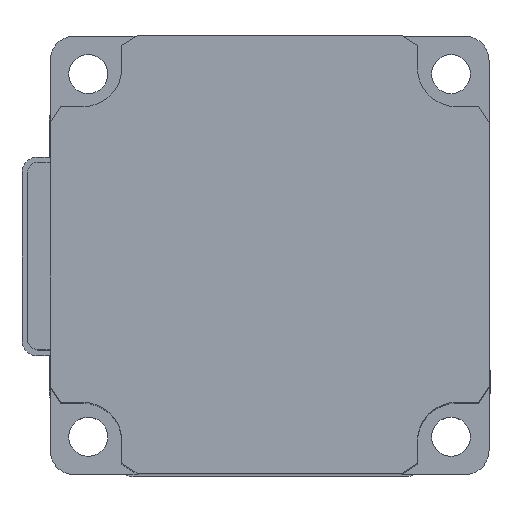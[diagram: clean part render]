
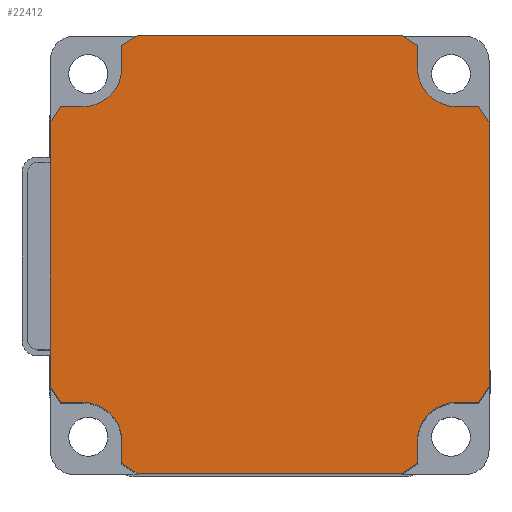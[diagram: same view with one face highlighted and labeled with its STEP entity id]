
A CAD part, top view. The second image highlights one B-rep face of the part: STEP entity #22412.
In plain terms, the highlighted planar face has unit normal (0, 0, 1).
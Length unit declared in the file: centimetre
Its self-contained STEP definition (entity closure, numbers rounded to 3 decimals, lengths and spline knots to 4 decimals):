
#8577=VERTEX_POINT('',#65694);
#8578=VERTEX_POINT('',#65695);
#8581=VERTEX_POINT('',#65703);
#8583=VERTEX_POINT('',#65709);
#8584=VERTEX_POINT('',#65710);
#8587=VERTEX_POINT('',#65718);
#8589=VERTEX_POINT('',#65724);
#8591=VERTEX_POINT('',#65730);
#8593=VERTEX_POINT('',#65736);
#8595=VERTEX_POINT('',#65742);
#8596=VERTEX_POINT('',#65743);
#8599=VERTEX_POINT('',#65751);
#8601=VERTEX_POINT('',#65757);
#8603=VERTEX_POINT('',#65763);
#8605=VERTEX_POINT('',#65769);
#8607=VERTEX_POINT('',#65775);
#8608=VERTEX_POINT('',#65776);
#8611=VERTEX_POINT('',#65784);
#8613=VERTEX_POINT('',#65790);
#8615=VERTEX_POINT('',#65796);
#8617=VERTEX_POINT('',#65802);
#8619=VERTEX_POINT('',#65808);
#8620=VERTEX_POINT('',#65809);
#8623=VERTEX_POINT('',#65817);
#11806=EDGE_CURVE('',#8577,#8578,#27075,.T.);
#11810=EDGE_CURVE('',#8578,#8581,#27079,.T.);
#11813=EDGE_CURVE('',#8583,#8584,#27082,.T.);
#11817=EDGE_CURVE('',#8584,#8587,#27086,.T.);
#11820=EDGE_CURVE('',#8587,#8589,#31299,.T.);
#11823=EDGE_CURVE('',#8589,#8591,#27090,.T.);
#11826=EDGE_CURVE('',#8591,#8593,#27093,.T.);
#11829=EDGE_CURVE('',#8595,#8596,#27096,.T.);
#11833=EDGE_CURVE('',#8596,#8599,#27100,.T.);
#11836=EDGE_CURVE('',#8599,#8601,#31301,.T.);
#11839=EDGE_CURVE('',#8601,#8603,#27104,.T.);
#11842=EDGE_CURVE('',#8603,#8605,#27107,.T.);
#11845=EDGE_CURVE('',#8607,#8608,#27110,.T.);
#11849=EDGE_CURVE('',#8608,#8611,#27114,.T.);
#11852=EDGE_CURVE('',#8611,#8613,#31303,.T.);
#11855=EDGE_CURVE('',#8613,#8615,#27118,.T.);
#11858=EDGE_CURVE('',#8615,#8617,#27121,.T.);
#11861=EDGE_CURVE('',#8619,#8620,#27124,.T.);
#11865=EDGE_CURVE('',#8620,#8623,#27128,.T.);
#11868=EDGE_CURVE('',#8623,#8577,#31305,.T.);
#11870=EDGE_CURVE('',#8617,#8619,#27131,.T.);
#11871=EDGE_CURVE('',#8605,#8607,#27132,.T.);
#11872=EDGE_CURVE('',#8593,#8595,#27133,.T.);
#11873=EDGE_CURVE('',#8581,#8583,#27134,.T.);
#18359=ORIENTED_EDGE('',*,*,#11806,.F.);
#18360=ORIENTED_EDGE('',*,*,#11868,.F.);
#18361=ORIENTED_EDGE('',*,*,#11865,.F.);
#18362=ORIENTED_EDGE('',*,*,#11861,.F.);
#18363=ORIENTED_EDGE('',*,*,#11870,.F.);
#18364=ORIENTED_EDGE('',*,*,#11858,.F.);
#18365=ORIENTED_EDGE('',*,*,#11855,.F.);
#18366=ORIENTED_EDGE('',*,*,#11852,.F.);
#18367=ORIENTED_EDGE('',*,*,#11849,.F.);
#18368=ORIENTED_EDGE('',*,*,#11845,.F.);
#18369=ORIENTED_EDGE('',*,*,#11871,.F.);
#18370=ORIENTED_EDGE('',*,*,#11842,.F.);
#18371=ORIENTED_EDGE('',*,*,#11839,.F.);
#18372=ORIENTED_EDGE('',*,*,#11836,.F.);
#18373=ORIENTED_EDGE('',*,*,#11833,.F.);
#18374=ORIENTED_EDGE('',*,*,#11829,.F.);
#18375=ORIENTED_EDGE('',*,*,#11872,.F.);
#18376=ORIENTED_EDGE('',*,*,#11826,.F.);
#18377=ORIENTED_EDGE('',*,*,#11823,.F.);
#18378=ORIENTED_EDGE('',*,*,#11820,.F.);
#18379=ORIENTED_EDGE('',*,*,#11817,.F.);
#18380=ORIENTED_EDGE('',*,*,#11813,.F.);
#18381=ORIENTED_EDGE('',*,*,#11873,.F.);
#18382=ORIENTED_EDGE('',*,*,#11810,.F.);
#19798=EDGE_LOOP('',(#18359,#18360,#18361,#18362,#18363,#18364,#18365,#18366,
#18367,#18368,#18369,#18370,#18371,#18372,#18373,#18374,#18375,#18376,#18377,
#18378,#18379,#18380,#18381,#18382));
#21139=FACE_BOUND('',#19798,.T.);
#22412=ADVANCED_FACE('',(#21139),#47437,.T.);
#27075=LINE('',#65693,#46785);
#27079=LINE('',#65702,#46789);
#27082=LINE('',#65708,#46792);
#27086=LINE('',#65717,#46796);
#27090=LINE('',#65729,#46800);
#27093=LINE('',#65735,#46803);
#27096=LINE('',#65741,#46806);
#27100=LINE('',#65750,#46810);
#27104=LINE('',#65762,#46814);
#27107=LINE('',#65768,#46817);
#27110=LINE('',#65774,#46820);
#27114=LINE('',#65783,#46824);
#27118=LINE('',#65795,#46828);
#27121=LINE('',#65801,#46831);
#27124=LINE('',#65807,#46834);
#27128=LINE('',#65816,#46838);
#27131=LINE('',#65825,#46841);
#27132=LINE('',#65826,#46842);
#27133=LINE('',#65827,#46843);
#27134=LINE('',#65828,#46844);
#31299=CIRCLE('',#43995,0.508);
#31301=CIRCLE('',#44002,0.508);
#31303=CIRCLE('',#44009,0.508);
#31305=CIRCLE('',#44016,0.508);
#43995=AXIS2_PLACEMENT_3D('',#65723,#69950,#69951);
#44002=AXIS2_PLACEMENT_3D('',#65756,#69974,#69975);
#44009=AXIS2_PLACEMENT_3D('',#65789,#69998,#69999);
#44016=AXIS2_PLACEMENT_3D('',#65822,#70022,#70023);
#44018=AXIS2_PLACEMENT_3D('',#65824,#70026,$);
#46785=VECTOR('',#69931,1.);
#46789=VECTOR('',#69936,1.);
#46792=VECTOR('',#69940,1.);
#46796=VECTOR('',#69945,1.);
#46800=VECTOR('',#69956,1.);
#46803=VECTOR('',#69960,1.);
#46806=VECTOR('',#69964,1.);
#46810=VECTOR('',#69969,1.);
#46814=VECTOR('',#69980,1.);
#46817=VECTOR('',#69984,1.);
#46820=VECTOR('',#69988,1.);
#46824=VECTOR('',#69993,1.);
#46828=VECTOR('',#70004,1.);
#46831=VECTOR('',#70008,1.);
#46834=VECTOR('',#70012,1.);
#46838=VECTOR('',#70017,1.);
#46841=VECTOR('',#70027,1.);
#46842=VECTOR('',#70028,1.);
#46843=VECTOR('',#70029,1.);
#46844=VECTOR('',#70030,1.);
#47437=PLANE('',#44018);
#65693=CARTESIAN_POINT('',(-1.9253,2.4333,7.6962));
#65694=CARTESIAN_POINT('',(-1.9253,2.4333,7.6962));
#65695=CARTESIAN_POINT('',(-1.9253,2.7203,7.6962));
#65702=CARTESIAN_POINT('',(-1.9253,2.7203,7.6962));
#65703=CARTESIAN_POINT('',(-1.7145,2.8575,7.6962));
#65708=CARTESIAN_POINT('',(1.7145,2.8575,7.6962));
#65709=CARTESIAN_POINT('',(1.7145,2.8575,7.6962));
#65710=CARTESIAN_POINT('',(1.9253,2.7203,7.6962));
#65717=CARTESIAN_POINT('',(1.9253,2.7203,7.6962));
#65718=CARTESIAN_POINT('',(1.9253,2.4333,7.6962));
#65723=CARTESIAN_POINT('',(2.4333,2.4333,7.6962));
#65724=CARTESIAN_POINT('',(2.4333,1.9253,7.6962));
#65729=CARTESIAN_POINT('',(2.4333,1.9253,7.6962));
#65730=CARTESIAN_POINT('',(2.7203,1.9253,7.6962));
#65735=CARTESIAN_POINT('',(2.7203,1.9253,7.6962));
#65736=CARTESIAN_POINT('',(2.8575,1.7145,7.6962));
#65741=CARTESIAN_POINT('',(2.8575,-1.7145,7.6962));
#65742=CARTESIAN_POINT('',(2.8575,-1.7145,7.6962));
#65743=CARTESIAN_POINT('',(2.7203,-1.9253,7.6962));
#65750=CARTESIAN_POINT('',(2.7203,-1.9253,7.6962));
#65751=CARTESIAN_POINT('',(2.4333,-1.9253,7.6962));
#65756=CARTESIAN_POINT('',(2.4333,-2.4333,7.6962));
#65757=CARTESIAN_POINT('',(1.9253,-2.4333,7.6962));
#65762=CARTESIAN_POINT('',(1.9253,-2.4333,7.6962));
#65763=CARTESIAN_POINT('',(1.9253,-2.7203,7.6962));
#65768=CARTESIAN_POINT('',(1.9253,-2.7203,7.6962));
#65769=CARTESIAN_POINT('',(1.7145,-2.8575,7.6962));
#65774=CARTESIAN_POINT('',(-1.7145,-2.8575,7.6962));
#65775=CARTESIAN_POINT('',(-1.7145,-2.8575,7.6962));
#65776=CARTESIAN_POINT('',(-1.9253,-2.7203,7.6962));
#65783=CARTESIAN_POINT('',(-1.9253,-2.7203,7.6962));
#65784=CARTESIAN_POINT('',(-1.9253,-2.4333,7.6962));
#65789=CARTESIAN_POINT('',(-2.4333,-2.4333,7.6962));
#65790=CARTESIAN_POINT('',(-2.4333,-1.9253,7.6962));
#65795=CARTESIAN_POINT('',(-2.4333,-1.9253,7.6962));
#65796=CARTESIAN_POINT('',(-2.7203,-1.9253,7.6962));
#65801=CARTESIAN_POINT('',(-2.7203,-1.9253,7.6962));
#65802=CARTESIAN_POINT('',(-2.8575,-1.7145,7.6962));
#65807=CARTESIAN_POINT('',(-2.8575,1.7145,7.6962));
#65808=CARTESIAN_POINT('',(-2.8575,1.7145,7.6962));
#65809=CARTESIAN_POINT('',(-2.7203,1.9253,7.6962));
#65816=CARTESIAN_POINT('',(-2.7203,1.9253,7.6962));
#65817=CARTESIAN_POINT('',(-2.4333,1.9253,7.6962));
#65822=CARTESIAN_POINT('',(-2.4333,2.4333,7.6962));
#65824=CARTESIAN_POINT('',(0.,0.,
7.6962));
#65825=CARTESIAN_POINT('',(-2.8575,-1.7145,7.6962));
#65826=CARTESIAN_POINT('',(1.7145,-2.8575,7.6962));
#65827=CARTESIAN_POINT('',(2.8575,1.7145,7.6962));
#65828=CARTESIAN_POINT('',(-1.7145,2.8575,7.6962));
#69931=DIRECTION('',(0.,1.,0.));
#69936=DIRECTION('',(0.838,0.545,0.));
#69940=DIRECTION('',(0.838,-0.545,0.));
#69945=DIRECTION('',(0.,-1.,0.));
#69950=DIRECTION('',(0.,0.,1.));
#69951=DIRECTION('',(0.508,0.,0.));
#69956=DIRECTION('',(1.,0.,0.));
#69960=DIRECTION('',(0.545,-0.838,0.));
#69964=DIRECTION('',(-0.545,-0.838,0.));
#69969=DIRECTION('',(-1.,0.,0.));
#69974=DIRECTION('',(0.,0.,1.));
#69975=DIRECTION('',(0.508,0.,0.));
#69980=DIRECTION('',(0.,-1.,0.));
#69984=DIRECTION('',(-0.838,-0.545,0.));
#69988=DIRECTION('',(-0.838,0.545,0.));
#69993=DIRECTION('',(0.,1.,0.));
#69998=DIRECTION('',(0.,0.,1.));
#69999=DIRECTION('',(0.508,0.,0.));
#70004=DIRECTION('',(-1.,0.,0.));
#70008=DIRECTION('',(-0.545,0.838,0.));
#70012=DIRECTION('',(0.545,0.838,0.));
#70017=DIRECTION('',(1.,0.,0.));
#70022=DIRECTION('',(0.,0.,1.));
#70023=DIRECTION('',(0.508,0.,0.));
#70026=DIRECTION('',(0.,0.,1.));
#70027=DIRECTION('',(0.,1.,0.));
#70028=DIRECTION('',(-1.,0.,0.));
#70029=DIRECTION('',(0.,-1.,0.));
#70030=DIRECTION('',(1.,0.,0.));
